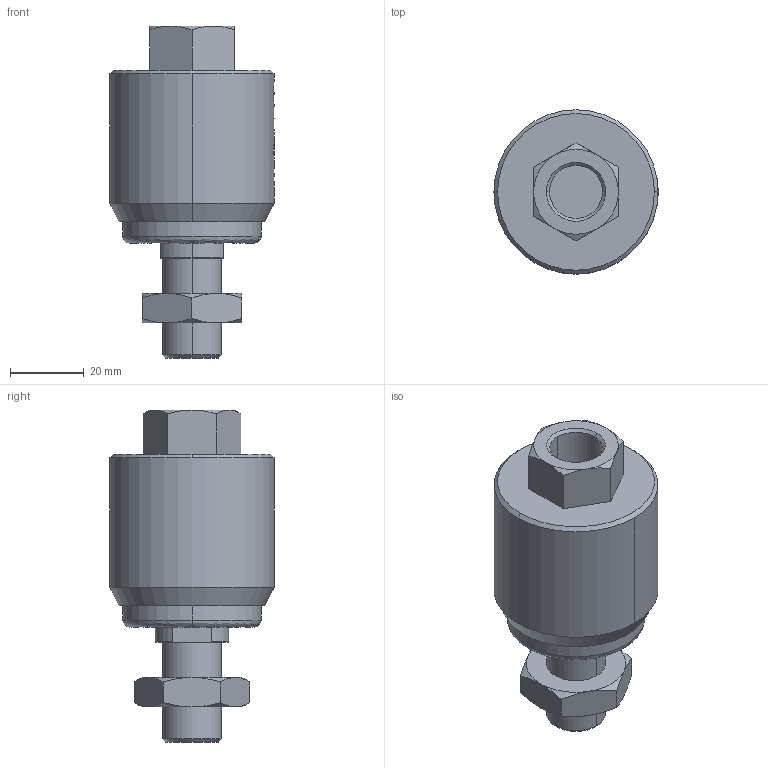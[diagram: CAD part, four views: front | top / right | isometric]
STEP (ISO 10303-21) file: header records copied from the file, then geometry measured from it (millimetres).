
FILE_DESCRIPTION (( 'STEP AP214' ), '1' );
FILE_NAME ('WKKA-050-M16x1.5 (3DMY).STEP', '2017-12-18T11:07:31', ( 'Hidtek' ), ( '' ), 'SwSTEP 2.0', 'SolidWorks 2016', '' );
FILE_SCHEMA (( 'AUTOMOTIVE_DESIGN' ));
Length unit declared in the file: millimetre
Products named in the file (1): WKKA-050-M16x1.5 (3DMY)
Bounding box: 44.5 x 44.5 x 90 mm (x, y, z)
Volume: 81123.1 mm3; surface area: 13764.5 mm2
Topology: 1 solids, 1 shells, 170 faces, 431 edges, 278 vertices
Faces by surface type: plane 98, cone 34, cylinder 24, bspline 14
Entity records: 6894 total; most frequent: CARTESIAN_POINT 1814, ORIENTED_EDGE 862, DIRECTION 715, EDGE_CURVE 431, VERTEX_POINT 278, AXIS2_PLACEMENT_3D 259, VECTOR 197, LINE 197
